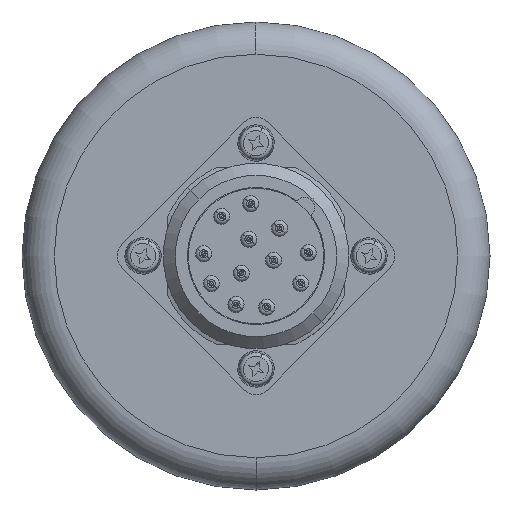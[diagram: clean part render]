
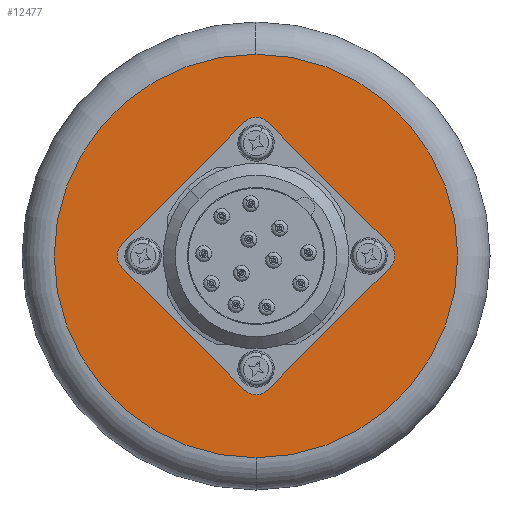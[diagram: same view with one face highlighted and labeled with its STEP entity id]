
A CAD part, left-side view. The second image highlights one B-rep face of the part: STEP entity #12477.
In plain terms, the highlighted planar face has unit normal (-1, 0, 0).
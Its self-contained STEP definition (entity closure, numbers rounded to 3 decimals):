
#4830 = CARTESIAN_POINT ( 'NONE',  ( -25., -14.001, 0. ) ) ;
#4831 = CARTESIAN_POINT ( 'NONE',  ( -25., -14.001, -1.35 ) ) ;
#4832 = CARTESIAN_POINT ( 'NONE',  ( -25., -14.001, 1.35 ) ) ;
#4834 = CARTESIAN_POINT ( 'NONE',  ( -25., 0., -25. ) ) ;
#4931 = CARTESIAN_POINT ( 'NONE',  ( -25., 14.001, -1.35 ) ) ;
#4932 = CARTESIAN_POINT ( 'NONE',  ( -25., 14.001, 1.35 ) ) ;
#4933 = DIRECTION ( 'NONE',  ( 0., 0., 1. ) ) ;
#4934 = DIRECTION ( 'NONE',  ( -1., 0., 0. ) ) ;
#4935 = AXIS2_PLACEMENT_3D ( 'NONE', #4942, #4934, #4933 ) ;
#4936 = CIRCLE ( 'NONE', #4935, 1.35 ) ;
#4937 = DIRECTION ( 'NONE',  ( 0., 0., 1. ) ) ;
#4938 = DIRECTION ( 'NONE',  ( -1., 0., 0. ) ) ;
#4939 = CARTESIAN_POINT ( 'NONE',  ( -25., 0., 14.001 ) ) ;
#4940 = AXIS2_PLACEMENT_3D ( 'NONE', #4939, #4938, #4937 ) ;
#4941 = CIRCLE ( 'NONE', #4940, 1.35 ) ;
#4942 = CARTESIAN_POINT ( 'NONE',  ( -25., 14.001, 0. ) ) ;
#4943 = CARTESIAN_POINT ( 'NONE',  ( -25., 0., 12.651 ) ) ;
#4944 = CARTESIAN_POINT ( 'NONE',  ( -25., 0., 15.351 ) ) ;
#4945 = DIRECTION ( 'NONE',  ( 0., 0., 1. ) ) ;
#4946 = DIRECTION ( 'NONE',  ( -1., 0., 0. ) ) ;
#4947 = AXIS2_PLACEMENT_3D ( 'NONE', #4953, #4946, #4945 ) ;
#4948 = CIRCLE ( 'NONE', #4947, 1.35 ) ;
#4949 = DIRECTION ( 'NONE',  ( 0., 0., 1. ) ) ;
#4950 = DIRECTION ( 'NONE',  ( -1., 0., 0. ) ) ;
#4951 = AXIS2_PLACEMENT_3D ( 'NONE', #4830, #4950, #4949 ) ;
#4952 = CIRCLE ( 'NONE', #4951, 1.35 ) ;
#4953 = CARTESIAN_POINT ( 'NONE',  ( -25., 0., 14.001 ) ) ;
#5453 = DIRECTION ( 'NONE',  ( 0., 0., 1. ) ) ;
#5454 = DIRECTION ( 'NONE',  ( -1., 0., 0. ) ) ;
#5455 = CARTESIAN_POINT ( 'NONE',  ( -25., 0., 0. ) ) ;
#5456 = AXIS2_PLACEMENT_3D ( 'NONE', #5455, #5454, #5453 ) ;
#5457 = CIRCLE ( 'NONE', #5456, 10. ) ;
#5459 = CARTESIAN_POINT ( 'NONE',  ( -25., 0., -10. ) ) ;
#5460 = CARTESIAN_POINT ( 'NONE',  ( -25., 0., 10. ) ) ;
#5461 = DIRECTION ( 'NONE',  ( 0., 0., 1. ) ) ;
#5462 = DIRECTION ( 'NONE',  ( -1., 0., 0. ) ) ;
#5463 = CARTESIAN_POINT ( 'NONE',  ( -25., 0., 0. ) ) ;
#5464 = AXIS2_PLACEMENT_3D ( 'NONE', #5463, #5462, #5461 ) ;
#5465 = CIRCLE ( 'NONE', #5464, 10. ) ;
#5466 = DIRECTION ( 'NONE',  ( 0., 0., 1. ) ) ;
#5560 = DIRECTION ( 'NONE',  ( -1., 0., 0. ) ) ;
#5561 = CARTESIAN_POINT ( 'NONE',  ( -25., 14.001, 0. ) ) ;
#5562 = AXIS2_PLACEMENT_3D ( 'NONE', #5561, #5560, #5466 ) ;
#5563 = CIRCLE ( 'NONE', #5562, 1.35 ) ;
#5614 = CARTESIAN_POINT ( 'NONE',  ( -25., 0., 0. ) ) ;
#5615 = AXIS2_PLACEMENT_3D ( 'NONE', #5614, #5664, #5663 ) ;
#5616 = CIRCLE ( 'NONE', #5615, 25. ) ;
#5662 = CARTESIAN_POINT ( 'NONE',  ( -25., 0., 25. ) ) ;
#5663 = DIRECTION ( 'NONE',  ( 0., 0., -1. ) ) ;
#5664 = DIRECTION ( 'NONE',  ( -1., 0., 0. ) ) ;
#6117 = DIRECTION ( 'NONE',  ( 0., 0., 1. ) ) ;
#6150 = FACE_OUTER_BOUND ( 'NONE', #12270, .T. ) ;
#6151 = FACE_BOUND ( 'NONE', #12263, .T. ) ;
#6152 = FACE_BOUND ( 'NONE', #12114, .T. ) ;
#6153 = FACE_BOUND ( 'NONE', #12107, .T. ) ;
#6154 = FACE_BOUND ( 'NONE', #12485, .T. ) ;
#6155 = FACE_BOUND ( 'NONE', #12478, .T. ) ;
#6156 = DIRECTION ( 'NONE',  ( 0., 0., -1. ) ) ;
#6157 = DIRECTION ( 'NONE',  ( -1., 0., 0. ) ) ;
#6158 = AXIS2_PLACEMENT_3D ( 'NONE', #6166, #6157, #6156 ) ;
#6159 = CIRCLE ( 'NONE', #6158, 25. ) ;
#6166 = CARTESIAN_POINT ( 'NONE',  ( -25., 0., 0. ) ) ;
#6270 = DIRECTION ( 'NONE',  ( -1., 0., 0. ) ) ;
#6271 = CARTESIAN_POINT ( 'NONE',  ( -25., -14.001, 0. ) ) ;
#6272 = AXIS2_PLACEMENT_3D ( 'NONE', #6271, #6270, #6117 ) ;
#6273 = CIRCLE ( 'NONE', #6272, 1.35 ) ;
#6274 = DIRECTION ( 'NONE',  ( 0., 0., 1. ) ) ;
#6275 = DIRECTION ( 'NONE',  ( -1., 0., 0. ) ) ;
#6276 = CARTESIAN_POINT ( 'NONE',  ( -25., 0., -14.001 ) ) ;
#6277 = AXIS2_PLACEMENT_3D ( 'NONE', #6276, #6275, #6274 ) ;
#6278 = CIRCLE ( 'NONE', #6277, 1.35 ) ;
#6279 = CARTESIAN_POINT ( 'NONE',  ( -25., 0., -15.351 ) ) ;
#6280 = CARTESIAN_POINT ( 'NONE',  ( -25., 0., -12.651 ) ) ;
#6281 = DIRECTION ( 'NONE',  ( 0., 0., 1. ) ) ;
#6282 = DIRECTION ( 'NONE',  ( -1., 0., 0. ) ) ;
#6283 = CARTESIAN_POINT ( 'NONE',  ( -25., 0., -14.001 ) ) ;
#6284 = AXIS2_PLACEMENT_3D ( 'NONE', #6283, #6282, #6281 ) ;
#6285 = CIRCLE ( 'NONE', #6284, 1.35 ) ;
#6286 = DIRECTION ( 'NONE',  ( 0., 0., -1. ) ) ;
#6287 = DIRECTION ( 'NONE',  ( 1., 0., 0. ) ) ;
#6288 = CARTESIAN_POINT ( 'NONE',  ( -25., 29., 0. ) ) ;
#6289 = AXIS2_PLACEMENT_3D ( 'NONE', #6288, #6287, #6286 ) ;
#6290 = PLANE ( 'NONE',  #6289 ) ;
#12101 = VERTEX_POINT ( 'NONE', #4834 ) ;
#12103 = VERTEX_POINT ( 'NONE', #4832 ) ;
#12104 = VERTEX_POINT ( 'NONE', #4831 ) ;
#12105 = ORIENTED_EDGE ( 'NONE', *, *, #12106, .F. ) ;
#12106 = EDGE_CURVE ( 'NONE', #12104, #12103, #4952, .T. ) ;
#12107 = EDGE_LOOP ( 'NONE', ( #12108, #12112 ) ) ;
#12108 = ORIENTED_EDGE ( 'NONE', *, *, #12109, .F. ) ;
#12109 = EDGE_CURVE ( 'NONE', #12110, #12111, #4948, .T. ) ;
#12110 = VERTEX_POINT ( 'NONE', #4944 ) ;
#12111 = VERTEX_POINT ( 'NONE', #4943 ) ;
#12112 = ORIENTED_EDGE ( 'NONE', *, *, #12113, .F. ) ;
#12113 = EDGE_CURVE ( 'NONE', #12111, #12110, #4941, .T. ) ;
#12114 = EDGE_LOOP ( 'NONE', ( #12115, #12261 ) ) ;
#12115 = ORIENTED_EDGE ( 'NONE', *, *, #12116, .F. ) ;
#12116 = EDGE_CURVE ( 'NONE', #12117, #12118, #4936, .T. ) ;
#12117 = VERTEX_POINT ( 'NONE', #4932 ) ;
#12118 = VERTEX_POINT ( 'NONE', #4931 ) ;
#12261 = ORIENTED_EDGE ( 'NONE', *, *, #12262, .F. ) ;
#12262 = EDGE_CURVE ( 'NONE', #12118, #12117, #5563, .T. ) ;
#12263 = EDGE_LOOP ( 'NONE', ( #12264, #12268 ) ) ;
#12264 = ORIENTED_EDGE ( 'NONE', *, *, #12265, .F. ) ;
#12265 = EDGE_CURVE ( 'NONE', #12266, #12267, #5465, .T. ) ;
#12266 = VERTEX_POINT ( 'NONE', #5460 ) ;
#12267 = VERTEX_POINT ( 'NONE', #5459 ) ;
#12268 = ORIENTED_EDGE ( 'NONE', *, *, #12269, .F. ) ;
#12269 = EDGE_CURVE ( 'NONE', #12267, #12266, #5457, .T. ) ;
#12270 = EDGE_LOOP ( 'NONE', ( #12271, #12272 ) ) ;
#12271 = ORIENTED_EDGE ( 'NONE', *, *, #12474, .T. ) ;
#12272 = ORIENTED_EDGE ( 'NONE', *, *, #12294, .T. ) ;
#12294 = EDGE_CURVE ( 'NONE', #12295, #12101, #5616, .T. ) ;
#12295 = VERTEX_POINT ( 'NONE', #5662 ) ;
#12474 = EDGE_CURVE ( 'NONE', #12101, #12295, #6159, .T. ) ;
#12477 = ADVANCED_FACE ( 'NONE', ( #6155, #6154, #6153, #6152, #6151, #6150 ), #6290, .F. ) ;
#12478 = EDGE_LOOP ( 'NONE', ( #12479, #12483 ) ) ;
#12479 = ORIENTED_EDGE ( 'NONE', *, *, #12480, .F. ) ;
#12480 = EDGE_CURVE ( 'NONE', #12481, #12482, #6285, .T. ) ;
#12481 = VERTEX_POINT ( 'NONE', #6280 ) ;
#12482 = VERTEX_POINT ( 'NONE', #6279 ) ;
#12483 = ORIENTED_EDGE ( 'NONE', *, *, #12484, .F. ) ;
#12484 = EDGE_CURVE ( 'NONE', #12482, #12481, #6278, .T. ) ;
#12485 = EDGE_LOOP ( 'NONE', ( #12486, #12105 ) ) ;
#12486 = ORIENTED_EDGE ( 'NONE', *, *, #12487, .F. ) ;
#12487 = EDGE_CURVE ( 'NONE', #12103, #12104, #6273, .T. ) ;
